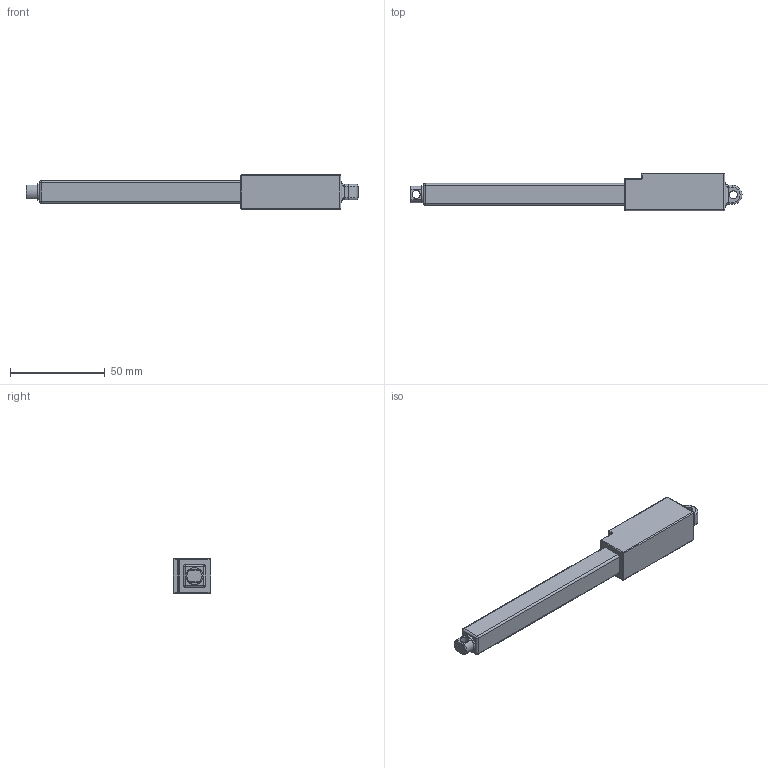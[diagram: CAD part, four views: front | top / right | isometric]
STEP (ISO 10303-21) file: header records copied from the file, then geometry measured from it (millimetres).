
FILE_DESCRIPTION(/* description */ ('Alibre Inc.'),/* implementation_level */ '2;1');
FILE_NAME(/* name */ 'export0',/* time_stamp */ '2013-08-15T14:37:37-06:00',/* author */ (''),/* organization */ (''),/* preprocessor_version */ 'ST-DEVELOPER v14',/* originating_system */ 'Alibre',/* authorisation */ '');
FILE_SCHEMA (('ALIBRE_SCHEMA','CONFIG_CONTROL_DESIGN'));
Length unit declared in the file: centimetre
Products named in the file (1): ID_1
Bounding box: 175 x 20 x 18 mm (x, y, z)
Volume: 34019.4 mm3; surface area: 9950.2 mm2
Topology: 1 solids, 1 shells, 87 faces, 195 edges, 96 vertices
Faces by surface type: cylinder 42, plane 21, sphere 14, torus 6, bspline 4
Full cylindrical faces by diameter (mm): 4.25 x2, 8.9 x1
Entity records: 5859 total; most frequent: CARTESIAN_POINT 1206, DIRECTION 583, CONSTRAINTPAIRUV 411, ORIENTED_EDGE 348, REFERENCEDEPENDENTUV 273, VECTOR 264, PERSISTANTTOPOLOGYATTRIBUTE 258, REFERENCEPOINTUV 208
